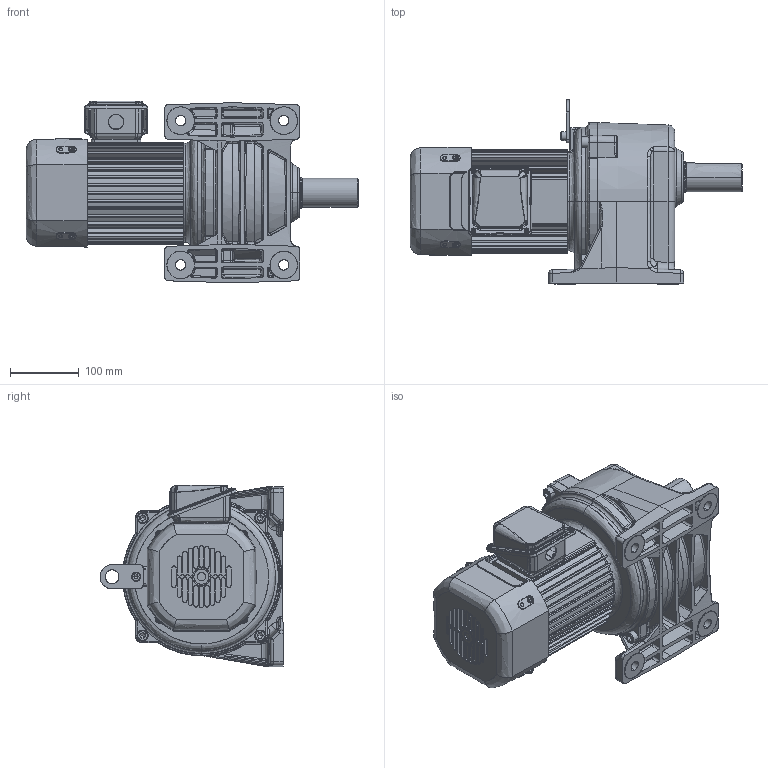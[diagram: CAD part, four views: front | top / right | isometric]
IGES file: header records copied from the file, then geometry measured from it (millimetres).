
Start section: SolidWorks IGES file using analytic representation for surfaces
Global section: file name: \\100.100.100.8\1_共有作業フォルダ\1-5_３Ｄデータ\solidworks\personal-folder\H.Nagayama\SGP1外形075~370\P1(3D)_075~370\igs\TMLB2-07-(100~200).IGS; native system: SolidWorks 2018; preprocessor: SolidWorks 2018; author: sigma-giken; date: 200807.144422; units: millimetre
Bounding box: 483 x 267.5 x 264.2 mm (x, y, z)
Surface area: 729504.5 mm2 (no closed solid volume)
Topology: 0 solids, 0 shells, 1955 faces, 23729 edges, 23676 vertices
Faces by surface type: bspline 1041, revolution 914
